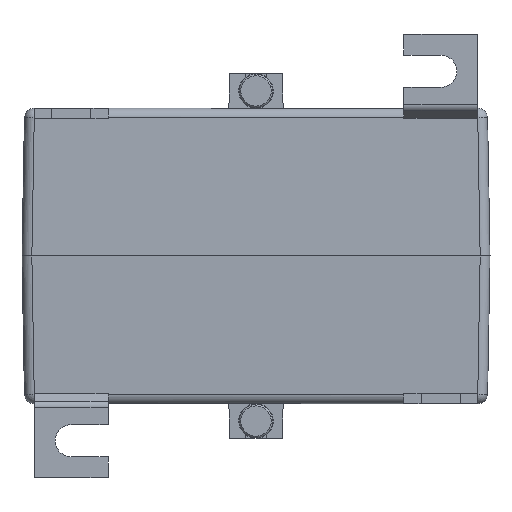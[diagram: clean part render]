
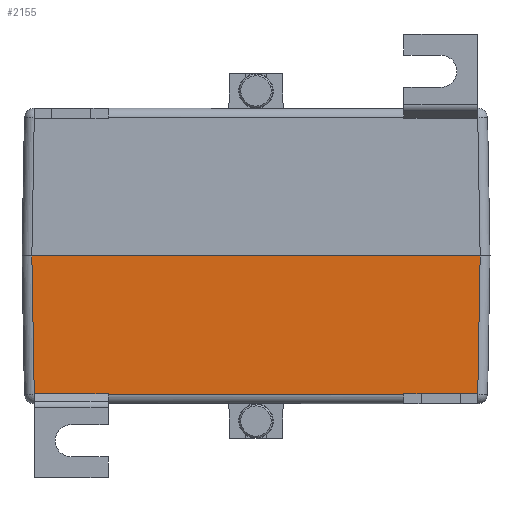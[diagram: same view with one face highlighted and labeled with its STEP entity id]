
A CAD part, front view. The second image highlights one B-rep face of the part: STEP entity #2155.
In plain terms, the highlighted planar face has unit normal (0, -1, -0.018) as drawn and (0, -1, 0.017) by its records, which use the part's own axes.
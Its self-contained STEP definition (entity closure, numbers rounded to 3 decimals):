
#1430 = VERTEX_POINT ( 'NONE', #7813 ) ;
#1446 = EDGE_CURVE ( 'NONE', #1454, #1458, #7573, .T. ) ;
#1454 = VERTEX_POINT ( 'NONE', #7823 ) ;
#1458 = VERTEX_POINT ( 'NONE', #7838 ) ;
#1810 = VERTEX_POINT ( 'NONE', #8467 ) ;
#1811 = EDGE_CURVE ( 'NONE', #1883, #1884, #8465, .T. ) ;
#1812 = VERTEX_POINT ( 'NONE', #8498 ) ;
#1820 = EDGE_CURVE ( 'NONE', #1810, #1812, #8517, .T. ) ;
#1883 = VERTEX_POINT ( 'NONE', #8766 ) ;
#1884 = VERTEX_POINT ( 'NONE', #8765 ) ;
#1924 = ORIENTED_EDGE ( 'NONE', *, *, #2128, .T. ) ;
#2072 = VERTEX_POINT ( 'NONE', #14935 ) ;
#2073 = ORIENTED_EDGE ( 'NONE', *, *, #2101, .T. ) ;
#2074 = EDGE_CURVE ( 'NONE', #2072, #2107, #14868, .T. ) ;
#2075 = ORIENTED_EDGE ( 'NONE', *, *, #2153, .T. ) ;
#2076 = EDGE_CURVE ( 'NONE', #2107, #1883, #14863, .T. ) ;
#2077 = ORIENTED_EDGE ( 'NONE', *, *, #2149, .T. ) ;
#2078 = VERTEX_POINT ( 'NONE', #14919 ) ;
#2079 = VERTEX_POINT ( 'NONE', #14918 ) ;
#2086 = ORIENTED_EDGE ( 'NONE', *, *, #2076, .T. ) ;
#2089 = EDGE_LOOP ( 'NONE', ( #2157, #2073, #2154, #2086, #2156, #2146, #2148, #2077, #2075, #1924, #2131, #2136 ) ) ;
#2096 = VERTEX_POINT ( 'NONE', #8551 ) ;
#2101 = EDGE_CURVE ( 'NONE', #1812, #2072, #8816, .T. ) ;
#2107 = VERTEX_POINT ( 'NONE', #15034 ) ;
#2128 = EDGE_CURVE ( 'NONE', #1430, #1454, #15124, .T. ) ;
#2130 = EDGE_CURVE ( 'NONE', #1458, #1810, #15114, .T. ) ;
#2131 = ORIENTED_EDGE ( 'NONE', *, *, #1446, .T. ) ;
#2136 = ORIENTED_EDGE ( 'NONE', *, *, #2130, .T. ) ;
#2145 = EDGE_CURVE ( 'NONE', #1884, #2096, #15160, .T. ) ;
#2146 = ORIENTED_EDGE ( 'NONE', *, *, #2145, .T. ) ;
#2147 = EDGE_CURVE ( 'NONE', #2096, #2078, #15151, .T. ) ;
#2148 = ORIENTED_EDGE ( 'NONE', *, *, #2147, .T. ) ;
#2149 = EDGE_CURVE ( 'NONE', #2078, #2079, #15180, .T. ) ;
#2153 = EDGE_CURVE ( 'NONE', #2079, #1430, #15137, .T. ) ;
#2154 = ORIENTED_EDGE ( 'NONE', *, *, #2074, .T. ) ;
#2155 = ADVANCED_FACE ( 'NONE', ( #15141 ), #15239, .T. ) ;
#2156 = ORIENTED_EDGE ( 'NONE', *, *, #1811, .T. ) ;
#2157 = ORIENTED_EDGE ( 'NONE', *, *, #1820, .T. ) ;
#7573 = LINE ( 'NONE', #7605, #7606 ) ;
#7602 = DIRECTION ( 'NONE',  ( 1., 0., 0. ) ) ;
#7605 = CARTESIAN_POINT ( 'NONE',  ( -47.5, -50., 0. ) ) ;
#7606 = VECTOR ( 'NONE', #7602, 1000. ) ;
#7813 = CARTESIAN_POINT ( 'NONE',  ( -45.011, -49.511, 28.035 ) ) ;
#7823 = CARTESIAN_POINT ( 'NONE',  ( -45.5, -50., 0. ) ) ;
#7838 = CARTESIAN_POINT ( 'NONE',  ( 45.5, -50., 0. ) ) ;
#8465 = LINE ( 'NONE', #8488, #8487 ) ;
#8467 = CARTESIAN_POINT ( 'NONE',  ( 45.011, -49.511, 28.035 ) ) ;
#8486 = DIRECTION ( 'NONE',  ( -1., 0., 0. ) ) ;
#8487 = VECTOR ( 'NONE', #8486, 1000. ) ;
#8488 = CARTESIAN_POINT ( 'NONE',  ( -47.5, -49.511, 28.035 ) ) ;
#8498 = CARTESIAN_POINT ( 'NONE',  ( 44.983, -49.511, 28.035 ) ) ;
#8514 = DIRECTION ( 'NONE',  ( -1., 0., 0. ) ) ;
#8515 = VECTOR ( 'NONE', #8514, 1000. ) ;
#8516 = CARTESIAN_POINT ( 'NONE',  ( -47.5, -49.511, 28.035 ) ) ;
#8517 = LINE ( 'NONE', #8516, #8515 ) ;
#8551 = CARTESIAN_POINT ( 'NONE',  ( -30.018, -49.511, 27.988 ) ) ;
#8765 = CARTESIAN_POINT ( 'NONE',  ( -30.017, -49.511, 28.035 ) ) ;
#8766 = CARTESIAN_POINT ( 'NONE',  ( 30.017, -49.511, 28.035 ) ) ;
#8811 = VECTOR ( 'NONE', #8841, 1000. ) ;
#8812 = CARTESIAN_POINT ( 'NONE',  ( 44.731, -50.014, -0.805 ) ) ;
#8816 = LINE ( 'NONE', #8812, #8811 ) ;
#8841 = DIRECTION ( 'NONE',  ( -0.009, -0.017, -1. ) ) ;
#14863 = LINE ( 'NONE', #14917, #14916 ) ;
#14868 = LINE ( 'NONE', #14926, #14924 ) ;
#14915 = DIRECTION ( 'NONE',  ( -0.009, 0.017, 1. ) ) ;
#14916 = VECTOR ( 'NONE', #14915, 1000. ) ;
#14917 = CARTESIAN_POINT ( 'NONE',  ( 30.256, -49.988, 0.678 ) ) ;
#14918 = CARTESIAN_POINT ( 'NONE',  ( -44.983, -49.511, 28.035 ) ) ;
#14919 = CARTESIAN_POINT ( 'NONE',  ( -44.982, -49.511, 27.988 ) ) ;
#14922 = DIRECTION ( 'NONE',  ( -1., 0., 0. ) ) ;
#14924 = VECTOR ( 'NONE', #14922, 1000. ) ;
#14926 = CARTESIAN_POINT ( 'NONE',  ( -47.5, -49.511, 27.988 ) ) ;
#14935 = CARTESIAN_POINT ( 'NONE',  ( 44.982, -49.511, 27.988 ) ) ;
#15034 = CARTESIAN_POINT ( 'NONE',  ( 30.018, -49.511, 27.988 ) ) ;
#15103 = DIRECTION ( 'NONE',  ( -0.017, 0.017, 1. ) ) ;
#15105 = VECTOR ( 'NONE', #15103, 1000. ) ;
#15107 = CARTESIAN_POINT ( 'NONE',  ( 45.472, -49.972, 1.622 ) ) ;
#15112 = DIRECTION ( 'NONE',  ( -0.017, -0.017, -1. ) ) ;
#15113 = VECTOR ( 'NONE', #15112, 1000. ) ;
#15114 = LINE ( 'NONE', #15107, #15105 ) ;
#15119 = CARTESIAN_POINT ( 'NONE',  ( -45.501, -50.001, -0.035 ) ) ;
#15124 = LINE ( 'NONE', #15119, #15113 ) ;
#15137 = LINE ( 'NONE', #15240, #15234 ) ;
#15141 = FACE_OUTER_BOUND ( 'NONE', #2089, .T. ) ;
#15142 = DIRECTION ( 'NONE',  ( -1., 0., 0. ) ) ;
#15144 = VECTOR ( 'NONE', #15142, 1000. ) ;
#15149 = CARTESIAN_POINT ( 'NONE',  ( -47.5, -49.511, 27.988 ) ) ;
#15151 = LINE ( 'NONE', #15149, #15144 ) ;
#15154 = DIRECTION ( 'NONE',  ( -0.009, -0.017, -1. ) ) ;
#15155 = VECTOR ( 'NONE', #15154, 1000. ) ;
#15159 = CARTESIAN_POINT ( 'NONE',  ( -30.263, -50.003, -0.15 ) ) ;
#15160 = LINE ( 'NONE', #15159, #15155 ) ;
#15179 = CARTESIAN_POINT ( 'NONE',  ( -44.738, -50., 0.024 ) ) ;
#15180 = LINE ( 'NONE', #15179, #15185 ) ;
#15185 = VECTOR ( 'NONE', #15248, 1000. ) ;
#15222 = DIRECTION ( 'NONE',  ( 0., -0.017, -1. ) ) ;
#15224 = DIRECTION ( 'NONE',  ( 0., -1., 0.017 ) ) ;
#15231 = AXIS2_PLACEMENT_3D ( 'NONE', #15242, #15224, #15222 ) ;
#15233 = DIRECTION ( 'NONE',  ( -1., 0., 0. ) ) ;
#15234 = VECTOR ( 'NONE', #15233, 1000. ) ;
#15239 = PLANE ( 'NONE',  #15231 ) ;
#15240 = CARTESIAN_POINT ( 'NONE',  ( -47.5, -49.511, 28.035 ) ) ;
#15242 = CARTESIAN_POINT ( 'NONE',  ( -47.5, -50., 0. ) ) ;
#15248 = DIRECTION ( 'NONE',  ( -0.009, 0.017, 1. ) ) ;
